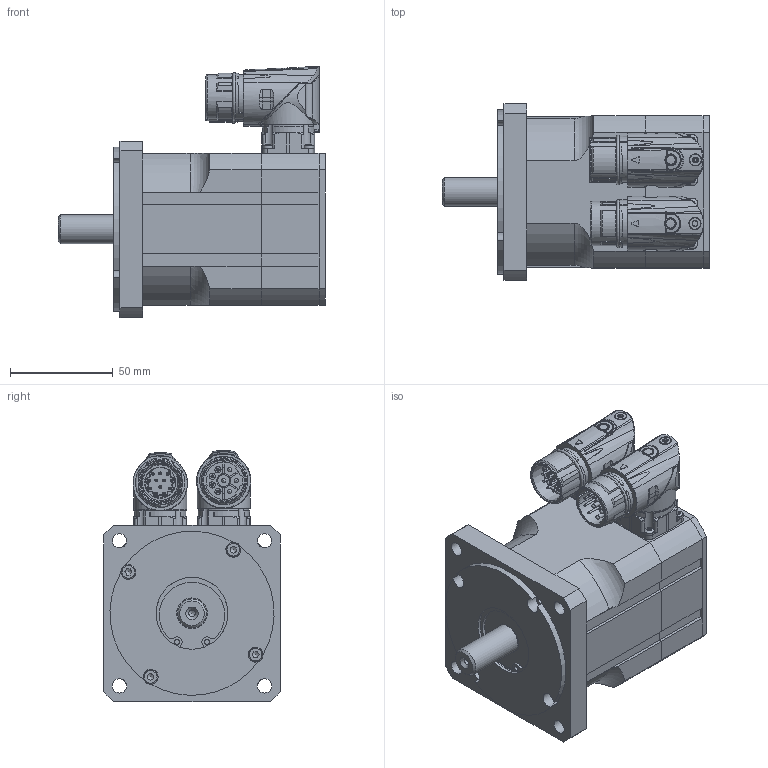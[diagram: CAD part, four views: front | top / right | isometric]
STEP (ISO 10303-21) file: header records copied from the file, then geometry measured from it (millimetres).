
FILE_DESCRIPTION(/* description */ (''),/* implementation_level */ '2;1');
FILE_NAME(/* name */ 'MR6334-Ux-Nxx-G01-A0D-M0-P0.stp',/* time_stamp */ '2018-02-15T10:40:51+01:00',/* author */ (''),/* organization */ (''),/* preprocessor_version */ 'ST-DEVELOPER v17',/* originating_system */ 'Autodesk Inventor 2018',/* authorisation */ '');
FILE_SCHEMA (('AUTOMOTIVE_DESIGN { 1 0 10303 214 3 1 1 }'));
Products named in the file (9): MR6334_G01_A0D_M0; MR6334_G01_A0D_M0_front; MR6334_G01_A0D_M0_P0; AED_0201_12-polig, Stift; 124888; 127323; BED_0201_8-polig, Stift; Basis 2; Basis 11
Assembly tree (8 placements, depth 3):
  MR6334_G01_A0D_M0
    MR6334_G01_A0D_M0_front
    MR6334_G01_A0D_M0_P0
    AED_0201_12-polig, Stift
      124888
      127323
    BED_0201_8-polig, Stift
      Basis 2
      Basis 11
Bounding box: 130.2 x 86 x 122.35 mm (x, y, z)
Volume: 324003.5 mm3; surface area: 112586.7 mm2
Topology: 6 solids, 27 shells, 1889 faces, 4964 edges, 3146 vertices
Faces by surface type: cylinder 839, plane 533, bspline 256, cone 146, torus 81, sphere 34
Full cylindrical faces by diameter (mm): 1 x16, 1.18 x12, 1.2 x12, 1.3 x4, 2 x4, 2.013 x4, 2.208 x8, 2.4 x8, 2.459 x12, 2.5 x10, 2.675 x4, 2.7 x4, 2.8 x4, 3 x9, 3.1 x4, 3.2 x1, 3.242 x5, 3.4 x4, 3.5 x4, 4 x4, 4.3 x4, 4.5 x2, 5 x8, 5.5 x2, 5.6 x4, 5.8 x1, 5.9 x2, 6 x4, 6.5 x4, 6.8 x1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
Entity records: 73303 total; most frequent: CARTESIAN_POINT 25064, ORIENTED_EDGE 9792, DIRECTION 9771, EDGE_CURVE 4896, AXIS2_PLACEMENT_3D 4056, VERTEX_POINT 3146, CIRCLE 2200, EDGE_LOOP 2098
